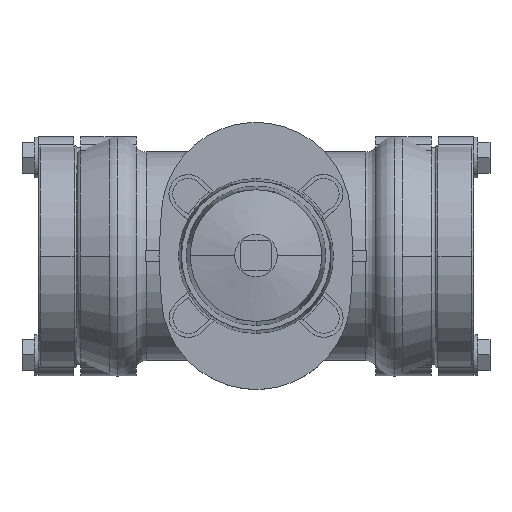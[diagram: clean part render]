
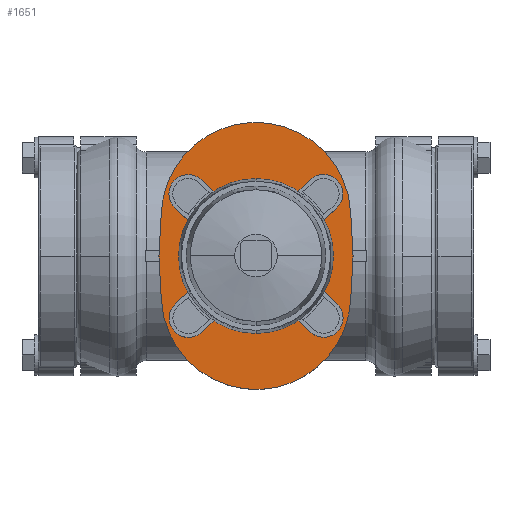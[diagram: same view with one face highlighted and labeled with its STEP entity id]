
A CAD part, top view. The second image highlights one B-rep face of the part: STEP entity #1651.
In plain terms, the highlighted planar face has unit normal (0, 0, 1).
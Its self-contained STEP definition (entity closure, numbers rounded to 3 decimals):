
#1651=ADVANCED_FACE('',(#3473),#3474,.T.);
#3473=FACE_OUTER_BOUND('',#6059,.T.);
#3474=PLANE('',#6060);
#6059=EDGE_LOOP('',(#8497,#8498,#8499,#8500,#8501,#8502,#8503,#8504));
#6060=AXIS2_PLACEMENT_3D('',#8505,#8506,#8507);
#8497=ORIENTED_EDGE('',*,*,#13995,.F.);
#8498=ORIENTED_EDGE('',*,*,#13996,.F.);
#8499=ORIENTED_EDGE('',*,*,#13997,.F.);
#8500=ORIENTED_EDGE('',*,*,#13998,.F.);
#8501=ORIENTED_EDGE('',*,*,#13999,.F.);
#8502=ORIENTED_EDGE('',*,*,#14000,.F.);
#8503=ORIENTED_EDGE('',*,*,#14001,.F.);
#8504=ORIENTED_EDGE('',*,*,#14002,.F.);
#8505=CARTESIAN_POINT('',(27.5,0.,95.));
#8506=DIRECTION('',(0.0,0.0,1.0));
#8507=DIRECTION('',(0.053,-0.999,0.0));
#13995=EDGE_CURVE('',#16482,#16483,#16484,.T.);
#13996=EDGE_CURVE('',#16485,#16482,#16486,.T.);
#13997=EDGE_CURVE('',#16487,#16485,#16488,.T.);
#13998=EDGE_CURVE('',#16489,#16487,#16490,.T.);
#13999=EDGE_CURVE('',#16491,#16489,#16492,.T.);
#14000=EDGE_CURVE('',#16493,#16491,#16494,.T.);
#14001=EDGE_CURVE('',#16495,#16493,#16496,.T.);
#14002=EDGE_CURVE('',#16483,#16495,#16497,.T.);
#16482=VERTEX_POINT('',#19820);
#16483=VERTEX_POINT('',#19821);
#16484=LINE('',#19822,#19823);
#16485=VERTEX_POINT('',#19824);
#16486=CIRCLE('',#19825,49.);
#16487=VERTEX_POINT('',#19826);
#16488=CIRCLE('',#19827,49.);
#16489=VERTEX_POINT('',#19828);
#16490=LINE('',#19829,#19830);
#16491=VERTEX_POINT('',#19831);
#16492=LINE('',#19832,#19833);
#16493=VERTEX_POINT('',#19834);
#16494=CIRCLE('',#19835,49.);
#16495=VERTEX_POINT('',#19836);
#16496=CIRCLE('',#19837,49.);
#16497=LINE('',#19838,#19839);
#19820=CARTESIAN_POINT('',(76.431,22.608,95.));
#19821=CARTESIAN_POINT('',(77.635,0.,95.));
#19822=CARTESIAN_POINT('',(77.635,0.,95.));
#19823=VECTOR('',#23641,1.);
#19824=CARTESIAN_POINT('',(24.892,68.931,95.));
#19825=AXIS2_PLACEMENT_3D('',#23642,#23643,#23644);
#19826=CARTESIAN_POINT('',(-21.431,22.608,95.));
#19827=AXIS2_PLACEMENT_3D('',#23645,#23646,#23647);
#19828=CARTESIAN_POINT('',(-22.636,0.,95.));
#19829=CARTESIAN_POINT('',(-21.431,22.608,95.));
#19830=VECTOR('',#23648,1.);
#19831=CARTESIAN_POINT('',(-21.431,-22.608,95.));
#19832=CARTESIAN_POINT('',(-22.636,0.,95.));
#19833=VECTOR('',#23649,1.);
#19834=CARTESIAN_POINT('',(30.108,-68.931,95.));
#19835=AXIS2_PLACEMENT_3D('',#23650,#23651,#23652);
#19836=CARTESIAN_POINT('',(76.431,-22.608,95.));
#19837=AXIS2_PLACEMENT_3D('',#23653,#23654,#23655);
#19838=CARTESIAN_POINT('',(76.431,-22.608,95.));
#19839=VECTOR('',#23656,1.);
#23641=DIRECTION('',(0.053,-0.999,0.0));
#23642=CARTESIAN_POINT('',(27.5,20.,95.));
#23643=DIRECTION('',(0.0,-0.0,-1.0));
#23644=DIRECTION('',(0.053,-0.999,0.0));
#23645=CARTESIAN_POINT('',(27.5,20.,95.));
#23646=DIRECTION('',(0.0,-0.0,-1.0));
#23647=DIRECTION('',(0.053,-0.999,0.0));
#23648=DIRECTION('',(0.053,0.999,0.0));
#23649=DIRECTION('',(-0.053,0.999,-0.0));
#23650=CARTESIAN_POINT('',(27.5,-20.,95.));
#23651=DIRECTION('',(0.0,-0.0,-1.0));
#23652=DIRECTION('',(0.053,-0.999,0.0));
#23653=CARTESIAN_POINT('',(27.5,-20.,95.));
#23654=DIRECTION('',(0.0,-0.0,-1.0));
#23655=DIRECTION('',(0.053,-0.999,0.0));
#23656=DIRECTION('',(-0.053,-0.999,0.0));
